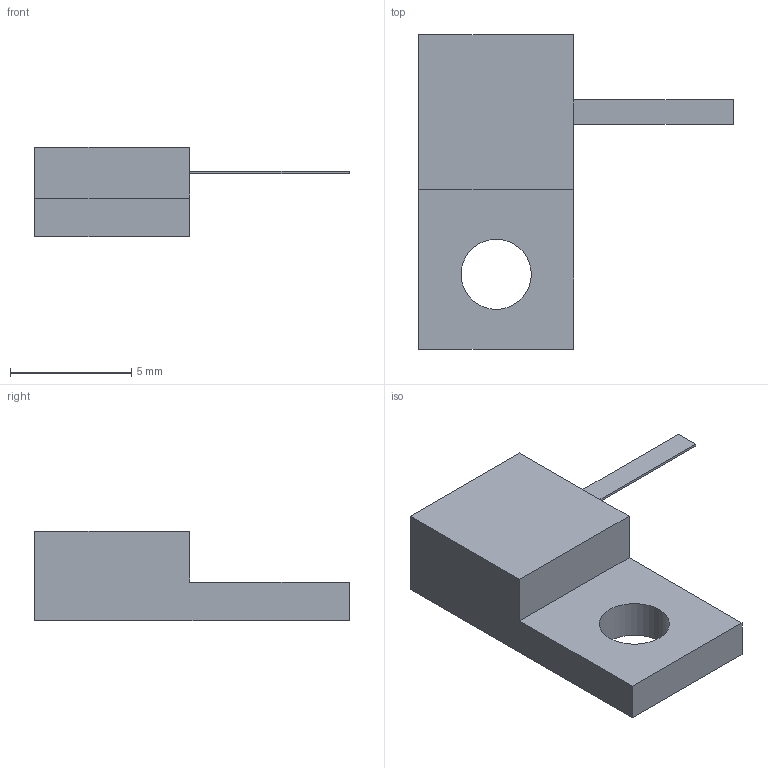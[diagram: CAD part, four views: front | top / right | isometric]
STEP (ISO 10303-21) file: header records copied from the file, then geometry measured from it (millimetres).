
FILE_DESCRIPTION(('STEP AP203'), '1');
FILE_NAME('P1-170-60-12', '', ('UNSPECIFIED'), ('UNSPECIFIED'), 'ASCON STEP Converter 1.6', 'ASCON Math Kernel', '');
FILE_SCHEMA(('CONFIG_CONTROL_DESIGN'));
Length unit declared in the file: millimetre
Bounding box: 13 x 13 x 3.7 mm (x, y, z)
Volume: 209.2 mm3; surface area: 298.1 mm2
Topology: 1 solids, 1 shells, 14 faces, 33 edges, 22 vertices
Faces by surface type: plane 13, cylinder 1
Full cylindrical faces by diameter (mm): 2.9 x1
Entity records: 554 total; most frequent: CARTESIAN_POINT 69, DIRECTION 64, ORIENTED_EDGE 64, EDGE_CURVE 32, LINE 30, VECTOR 30, VERTEX_POINT 22, EDGE_LOOP 18
